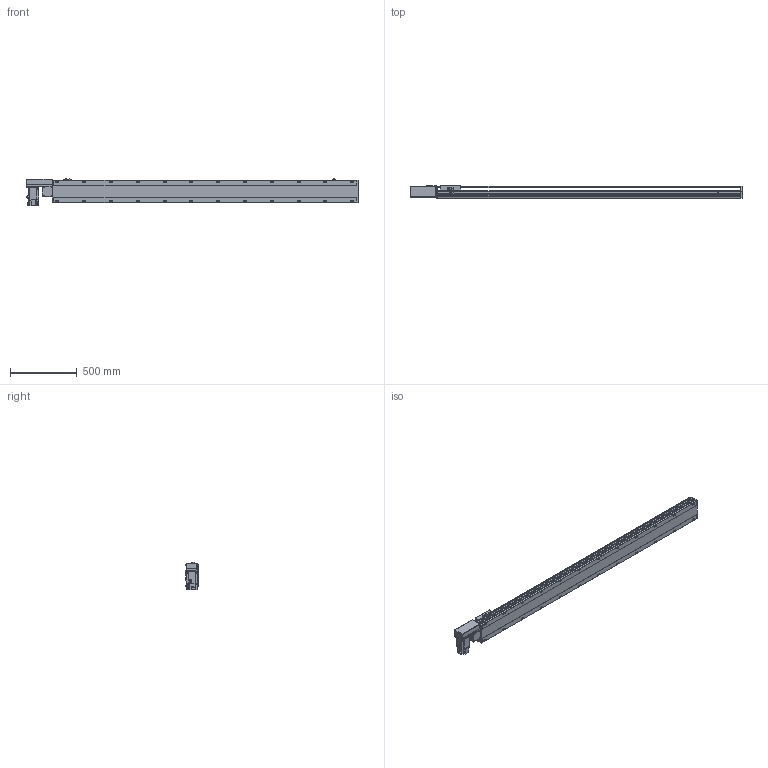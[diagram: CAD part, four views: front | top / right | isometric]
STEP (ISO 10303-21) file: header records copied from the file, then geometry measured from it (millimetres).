
FILE_DESCRIPTION(/* description */ ('STEP AP214'),/* implementation_level */ '2;1');
FILE_NAME(/* name */ 'PBS170-P40-S2000-R-T75-C1-N(0)',/* time_stamp */ '2022-06-07T09:31:34+02:00',/* author */ ('License CC BY-ND 4.0'),/* organization */ ('CADENAS'),/* preprocessor_version */ 'ST-DEVELOPER v18.102',/* originating_system */ 'PARTsolutions',/* authorisation */ ' ');
FILE_SCHEMA (('AUTOMOTIVE_DESIGN {1 0 10303 214 3 1 1}'));
Length unit declared in the file: millimetre
Products named in the file (7): PBS170-P40-S2000-R-T75-C1-N(0); PBS170_sensor; PBS170_plant; PBS170_sliser; T75-p1; PBS170T-R_motors; PBS170-S2000()_body
Assembly tree (8 placements, depth 2):
  PBS170-P40-S2000-R-T75-C1-N(0)
    PBS170_sensor  x3
    PBS170_plant
    PBS170_sliser
    T75-p1
    PBS170T-R_motors
    PBS170-S2000()_body
Bounding box: 2478 x 97 x 205.3 mm (x, y, z)
Volume: 18117964.6 mm3; surface area: 2298960.7 mm2
Topology: 8 solids, 8 shells, 1146 faces, 3035 edges, 1978 vertices
Faces by surface type: plane 711, cylinder 371, cone 54, sphere 8, torus 2
Full cylindrical faces by diameter (mm): 3.242 x4, 4 x2, 4.4 x4, 4.5 x6, 4.917 x4, 6 x9, 6.647 x32, 7 x2, 7.5 x4, 8 x8, 8.5 x24, 10 x4, 10.5 x24, 11 x2, 30 x2, 40 x1, 70 x1
Entity records: 32950 total; most frequent: CARTESIAN_POINT 6161, DIRECTION 5580, ORIENTED_EDGE 5268, EDGE_CURVE 2634, AXIS2_PLACEMENT_3D 1957, VERTEX_POINT 1826, LINE 1666, VECTOR 1666
